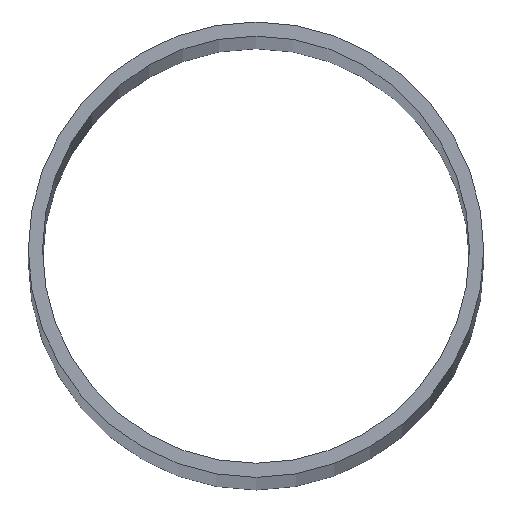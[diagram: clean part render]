
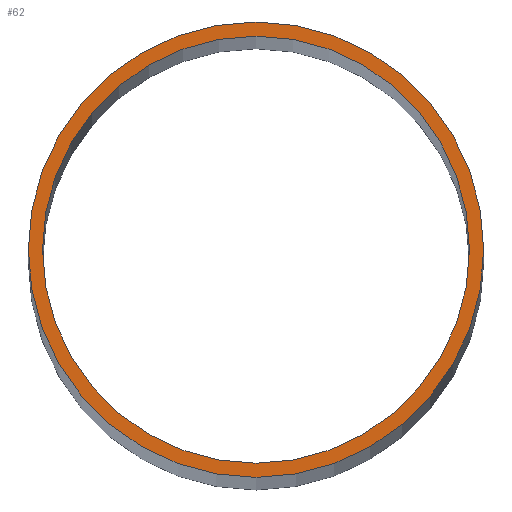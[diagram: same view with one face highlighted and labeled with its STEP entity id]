
A CAD part, top view. The second image highlights one B-rep face of the part: STEP entity #62.
In plain terms, the highlighted planar face has unit normal (0, 0, 1).
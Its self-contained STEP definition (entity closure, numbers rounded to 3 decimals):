
#15=PLANE('',#90);
#19=FACE_BOUND('',#31,.T.);
#23=FACE_OUTER_BOUND('',#30,.T.);
#30=EDGE_LOOP('',(#50));
#31=EDGE_LOOP('',(#51));
#32=CIRCLE('',#84,147.7);
#34=CIRCLE('',#87,157.5);
#36=VERTEX_POINT('',#111);
#38=VERTEX_POINT('',#116);
#40=EDGE_CURVE('',#36,#36,#32,.T.);
#42=EDGE_CURVE('',#38,#38,#34,.T.);
#50=ORIENTED_EDGE('',*,*,#42,.T.);
#51=ORIENTED_EDGE('',*,*,#40,.T.);
#62=ADVANCED_FACE('',(#23,#19),#15,.T.);
#84=AXIS2_PLACEMENT_3D('',#112,#95,#96);
#87=AXIS2_PLACEMENT_3D('',#117,#101,#102);
#90=AXIS2_PLACEMENT_3D('',#121,#107,#108);
#95=DIRECTION('center_axis',(0.,0.,-1.));
#96=DIRECTION('ref_axis',(-1.,0.,0.));
#101=DIRECTION('center_axis',(0.,0.,1.));
#102=DIRECTION('ref_axis',(-1.,0.,0.));
#107=DIRECTION('center_axis',(0.,0.,1.));
#108=DIRECTION('ref_axis',(1.,0.,0.));
#111=CARTESIAN_POINT('',(147.7,0.,5000.));
#112=CARTESIAN_POINT('Origin',(0.,0.,5000.));
#116=CARTESIAN_POINT('',(157.5,0.,5000.));
#117=CARTESIAN_POINT('Origin',(0.,0.,5000.));
#121=CARTESIAN_POINT('Origin',(0.,0.,5000.));
